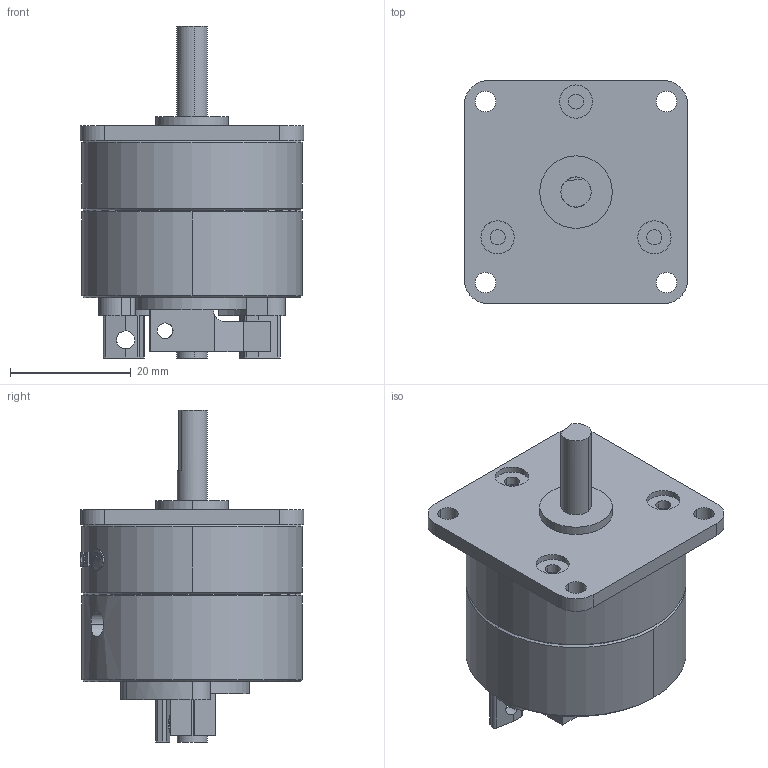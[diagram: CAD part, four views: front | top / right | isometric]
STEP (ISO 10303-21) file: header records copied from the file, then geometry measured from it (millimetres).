
FILE_DESCRIPTION (( 'STEP AP203' ), '1' );
FILE_NAME ('PROA3S-#-#-P.STEP', '2016-02-04T06:59:17', ( 'Sam Lin' ), ( '' ), 'SwSTEP 2.0', 'SolidWorks 2013', '' );
FILE_SCHEMA (( 'CONFIG_CONTROL_DESIGN' ));
Length unit declared in the file: metre
Products named in the file (9): PROA3S-#-#-P; PROA3S-#-# (4); PROA3S-#-# (5); PROA3S-#-# (1); PROA3S-#-# (2); PROA3S-#-# (3); PROA3S-#-# (6); PROA3S-#-#-P (6); mark-PROA3S-2
Assembly tree (8 placements, depth 2):
  PROA3S-#-#-P
    PROA3S-#-# (4)
    PROA3S-#-# (5)
    PROA3S-#-# (1)
    PROA3S-#-# (2)
    PROA3S-#-# (3)
    PROA3S-#-# (6)
    PROA3S-#-#-P (6)
    mark-PROA3S-2
Bounding box: 37 x 37.05 x 55 mm (x, y, z)
Volume: 31834.2 mm3; surface area: 14576.9 mm2
Topology: 14 solids, 14 shells, 377 faces, 918 edges, 601 vertices
Faces by surface type: cylinder 182, plane 141, bspline 35, cone 19
Entity records: 15149 total; most frequent: CARTESIAN_POINT 5182, DIRECTION 1931, ORIENTED_EDGE 1816, EDGE_CURVE 908, AXIS2_PLACEMENT_3D 757, VERTEX_POINT 601, EDGE_LOOP 465, VECTOR 417
